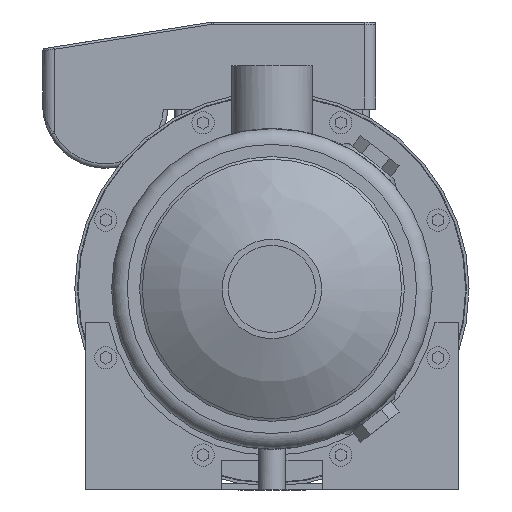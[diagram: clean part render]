
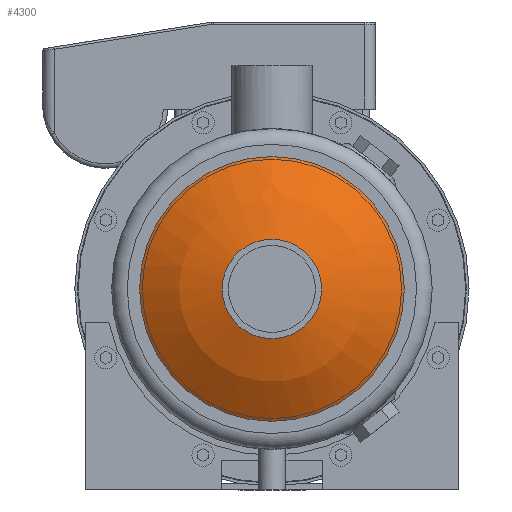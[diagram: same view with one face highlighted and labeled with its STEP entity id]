
A CAD part, left-side view. The second image highlights one B-rep face of the part: STEP entity #4300.
In plain terms, the highlighted spherical face has radius 100 mm.
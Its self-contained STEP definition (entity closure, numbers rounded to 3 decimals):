
#59=SPHERICAL_SURFACE('',#5717,100.);
#972=ORIENTED_EDGE('',*,*,#2147,.T.);
#973=ORIENTED_EDGE('',*,*,#2146,.F.);
#2146=EDGE_CURVE('',#2738,#2738,#3141,.T.);
#2147=EDGE_CURVE('',#2739,#2739,#3142,.T.);
#2738=VERTEX_POINT('',#7664);
#2739=VERTEX_POINT('',#7667);
#3141=CIRCLE('',#5716,22.25);
#3142=CIRCLE('',#5718,59.25);
#3348=EDGE_LOOP('',(#972));
#3349=EDGE_LOOP('',(#973));
#3747=FACE_BOUND('',#3348,.T.);
#3748=FACE_BOUND('',#3349,.T.);
#4300=ADVANCED_FACE('',(#3747,#3748),#59,.T.);
#5716=AXIS2_PLACEMENT_3D('',#7663,#6248,#6249);
#5717=AXIS2_PLACEMENT_3D('',#7665,#6250,#6251);
#5718=AXIS2_PLACEMENT_3D('',#7666,#6252,#6253);
#6248=DIRECTION('',(-1.,0.,0.));
#6249=DIRECTION('',(0.,0.,1.));
#6250=DIRECTION('',(-1.,0.,0.));
#6251=DIRECTION('',(0.,0.,1.));
#6252=DIRECTION('',(-1.,0.,0.));
#6253=DIRECTION('',(0.,0.,1.));
#7663=CARTESIAN_POINT('',(-187.293,0.,0.));
#7664=CARTESIAN_POINT('',(-187.293,0.,22.25));
#7665=CARTESIAN_POINT('',(-89.8,0.,0.));
#7666=CARTESIAN_POINT('',(-170.357,0.,0.));
#7667=CARTESIAN_POINT('',(-170.357,0.,59.25));
